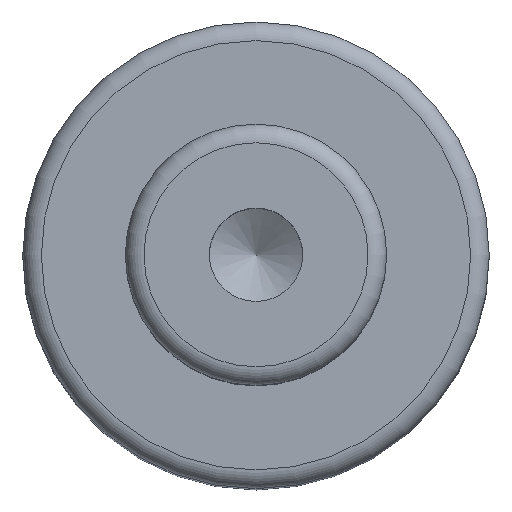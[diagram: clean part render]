
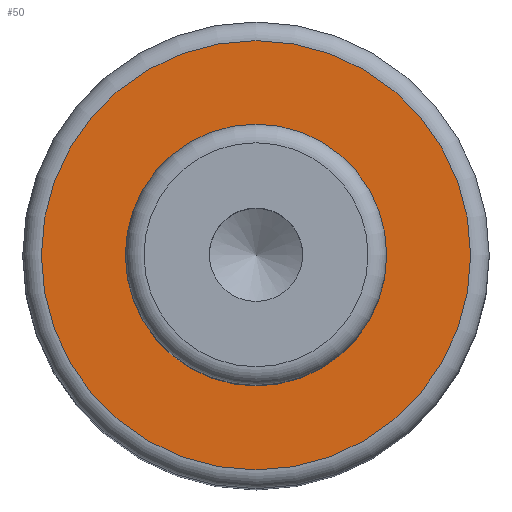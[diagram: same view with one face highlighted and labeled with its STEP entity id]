
A CAD part, top view. The second image highlights one B-rep face of the part: STEP entity #50.
In plain terms, the highlighted planar face has unit normal (0, 0, 1).
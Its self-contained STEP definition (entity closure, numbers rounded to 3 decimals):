
#40=PLANE('',#179);
#50=ADVANCED_FACE('',(#72,#73),#40,.F.);
#72=FACE_BOUND('',#96,.T.);
#73=FACE_BOUND('',#97,.T.);
#96=EDGE_LOOP('',(#118));
#97=EDGE_LOOP('',(#119));
#118=ORIENTED_EDGE('',*,*,#149,.F.);
#119=ORIENTED_EDGE('',*,*,#148,.T.);
#135=VERTEX_POINT('',#256);
#136=VERTEX_POINT('',#259);
#148=EDGE_CURVE('',#135,#135,#159,.T.);
#149=EDGE_CURVE('',#136,#136,#160,.T.);
#159=CIRCLE('',#176,7.);
#160=CIRCLE('',#178,11.5);
#176=AXIS2_PLACEMENT_3D('',#255,#213,#214);
#178=AXIS2_PLACEMENT_3D('',#258,#217,#218);
#179=AXIS2_PLACEMENT_3D('',#260,#219,#220);
#213=DIRECTION('',(0.,0.,-1.));
#214=DIRECTION('',(-1.,0.,0.));
#217=DIRECTION('',(0.,0.,-1.));
#218=DIRECTION('',(-1.,0.,0.));
#219=DIRECTION('',(0.,0.,-1.));
#220=DIRECTION('',(-1.,0.,0.));
#255=CARTESIAN_POINT('',(0.,0.,44.));
#256=CARTESIAN_POINT('',(-7.,0.,44.));
#258=CARTESIAN_POINT('',(0.,0.,44.));
#259=CARTESIAN_POINT('',(-11.5,0.,44.));
#260=CARTESIAN_POINT('',(7.,0.,44.));
